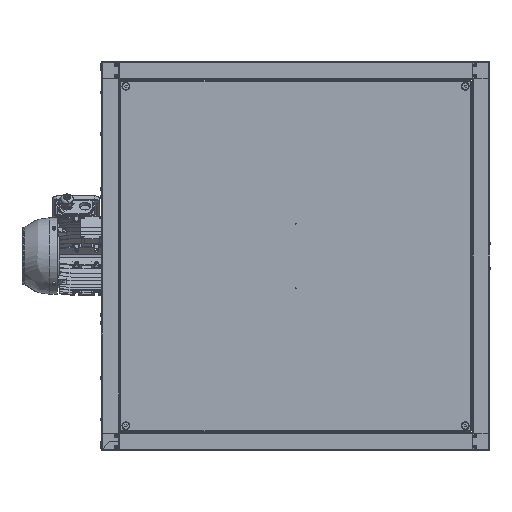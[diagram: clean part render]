
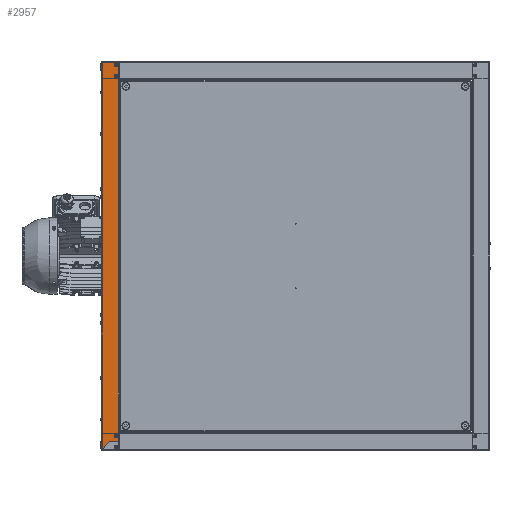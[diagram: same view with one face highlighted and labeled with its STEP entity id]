
A CAD part, left-side view. The second image highlights one B-rep face of the part: STEP entity #2957.
In plain terms, the highlighted planar face has unit normal (-1, 0, 0).
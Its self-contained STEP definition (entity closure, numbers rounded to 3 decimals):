
#577 = CARTESIAN_POINT ( 'NONE',  ( -450., 413.9, 417.2 ) ) ;
#689 = CIRCLE ( 'NONE', #39492, 2.1 ) ;
#851 = VERTEX_POINT ( 'NONE', #14037 ) ;
#1060 = EDGE_CURVE ( 'NONE', #10006, #851, #87033, .T. ) ;
#2957 = ADVANCED_FACE ( 'NONE', ( #48115, #45896, #26895, #7860 ), #43989, .F. ) ;
#4261 = DIRECTION ( 'NONE',  ( 0., -1., 0. ) ) ;
#4307 = CARTESIAN_POINT ( 'NONE',  ( -450., 416., -417.2 ) ) ;
#4542 = AXIS2_PLACEMENT_3D ( 'NONE', #5942, #55896, #13144 ) ;
#4885 = DIRECTION ( 'NONE',  ( -1., 0., 0. ) ) ;
#5180 = LINE ( 'NONE', #6400, #81252 ) ;
#5189 = DIRECTION ( 'NONE',  ( 0., 0., -1. ) ) ;
#5220 = CARTESIAN_POINT ( 'NONE',  ( -450., 410.7, 411.65 ) ) ;
#5245 = DIRECTION ( 'NONE',  ( 1., 0., 0. ) ) ;
#5942 = CARTESIAN_POINT ( 'NONE',  ( -450., 416., 441.7 ) ) ;
#6376 = CIRCLE ( 'NONE', #58383, 2.1 ) ;
#6400 = CARTESIAN_POINT ( 'NONE',  ( -450., 410.7, -410.05 ) ) ;
#6476 = ORIENTED_EDGE ( 'NONE', *, *, #17578, .T. ) ;
#6588 = VERTEX_POINT ( 'NONE', #45295 ) ;
#7860 = FACE_OUTER_BOUND ( 'NONE', #44900, .T. ) ;
#8330 = VERTEX_POINT ( 'NONE', #577 ) ;
#10006 = VERTEX_POINT ( 'NONE', #37732 ) ;
#10173 = CARTESIAN_POINT ( 'NONE',  ( -450., 410.2, 411.65 ) ) ;
#10310 = LINE ( 'NONE', #34438, #84173 ) ;
#12044 = VECTOR ( 'NONE', #92623, 1000. ) ;
#12526 = CARTESIAN_POINT ( 'NONE',  ( -450., 448., -447.35 ) ) ;
#13144 = DIRECTION ( 'NONE',  ( 0., -1., 0. ) ) ;
#14037 = CARTESIAN_POINT ( 'NONE',  ( -450., 418.1, -417.2 ) ) ;
#14275 = LINE ( 'NONE', #22300, #12044 ) ;
#16045 = EDGE_CURVE ( 'NONE', #51149, #73587, #14275, .T. ) ;
#17045 = EDGE_CURVE ( 'NONE', #86319, #90865, #43957, .T. ) ;
#17578 = EDGE_CURVE ( 'NONE', #33558, #51149, #10310, .T. ) ;
#18221 = CIRCLE ( 'NONE', #4542, 2.1 ) ;
#18536 = AXIS2_PLACEMENT_3D ( 'NONE', #19602, #5245, #34048 ) ;
#19334 = EDGE_CURVE ( 'NONE', #77454, #33558, #52613, .T. ) ;
#19396 = CARTESIAN_POINT ( 'NONE',  ( -450., 410.2, -410.05 ) ) ;
#19602 = CARTESIAN_POINT ( 'NONE',  ( -450., 450., 448.95 ) ) ;
#22118 = CARTESIAN_POINT ( 'NONE',  ( -450., 410.2, -429.1 ) ) ;
#22300 = CARTESIAN_POINT ( 'NONE',  ( -450., 410.2, 448. ) ) ;
#22421 = ORIENTED_EDGE ( 'NONE', *, *, #19334, .T. ) ;
#23254 = EDGE_LOOP ( 'NONE', ( #80254, #61811 ) ) ;
#23808 = VECTOR ( 'NONE', #32987, 1000. ) ;
#24898 = VECTOR ( 'NONE', #4261, 1000. ) ;
#25872 = CARTESIAN_POINT ( 'NONE',  ( -450., 410.2, 448. ) ) ;
#26231 = AXIS2_PLACEMENT_3D ( 'NONE', #4307, #47110, #90010 ) ;
#26895 = FACE_BOUND ( 'NONE', #23254, .T. ) ;
#29264 = DIRECTION ( 'NONE',  ( -1., 0., 0. ) ) ;
#29582 = DIRECTION ( 'NONE',  ( -1., 0., 0. ) ) ;
#30915 = ORIENTED_EDGE ( 'NONE', *, *, #33387, .F. ) ;
#31949 = CIRCLE ( 'NONE', #58801, 2.1 ) ;
#32693 = CARTESIAN_POINT ( 'NONE',  ( -450., 418.1, 417.2 ) ) ;
#32987 = DIRECTION ( 'NONE',  ( 0., 0., -1. ) ) ;
#32996 = DIRECTION ( 'NONE',  ( 0., 0., 1. ) ) ;
#33387 = EDGE_CURVE ( 'NONE', #53920, #8330, #689, .T. ) ;
#33558 = VERTEX_POINT ( 'NONE', #10173 ) ;
#34048 = DIRECTION ( 'NONE',  ( 0., 1., 0. ) ) ;
#34438 = CARTESIAN_POINT ( 'NONE',  ( -450., 410.2, 411.65 ) ) ;
#36108 = ORIENTED_EDGE ( 'NONE', *, *, #66110, .F. ) ;
#36625 = CARTESIAN_POINT ( 'NONE',  ( -450., 449.1, -448.45 ) ) ;
#37732 = CARTESIAN_POINT ( 'NONE',  ( -450., 413.9, -417.2 ) ) ;
#37868 = VECTOR ( 'NONE', #32996, 1000. ) ;
#38542 = EDGE_CURVE ( 'NONE', #851, #10006, #31949, .T. ) ;
#38991 = VERTEX_POINT ( 'NONE', #19396 ) ;
#39395 = ORIENTED_EDGE ( 'NONE', *, *, #1060, .F. ) ;
#39492 = AXIS2_PLACEMENT_3D ( 'NONE', #72372, #29582, #79601 ) ;
#40998 = VERTEX_POINT ( 'NONE', #12526 ) ;
#41023 = EDGE_CURVE ( 'NONE', #6588, #52832, #18221, .T. ) ;
#42042 = CARTESIAN_POINT ( 'NONE',  ( -450., 416., -417.2 ) ) ;
#42393 = LINE ( 'NONE', #76780, #59048 ) ;
#43776 = EDGE_CURVE ( 'NONE', #73587, #40998, #42393, .T. ) ;
#43957 = LINE ( 'NONE', #22118, #24898 ) ;
#43989 = PLANE ( 'NONE',  #18536 ) ;
#44474 = ORIENTED_EDGE ( 'NONE', *, *, #43776, .T. ) ;
#44900 = EDGE_LOOP ( 'NONE', ( #77944, #44474, #36108, #74135, #59384, #50218, #71349, #22421, #6476 ) ) ;
#45295 = CARTESIAN_POINT ( 'NONE',  ( -450., 418.1, 441.7 ) ) ;
#45896 = FACE_BOUND ( 'NONE', #79512, .T. ) ;
#47110 = DIRECTION ( 'NONE',  ( -1., 0., 0. ) ) ;
#47660 = CARTESIAN_POINT ( 'NONE',  ( -450., 416., 417.2 ) ) ;
#48115 = FACE_BOUND ( 'NONE', #53742, .T. ) ;
#48144 = DIRECTION ( 'NONE',  ( 0., -1., 0. ) ) ;
#49171 = DIRECTION ( 'NONE',  ( 0., -1., 0. ) ) ;
#50218 = ORIENTED_EDGE ( 'NONE', *, *, #53314, .T. ) ;
#51149 = VERTEX_POINT ( 'NONE', #25872 ) ;
#52613 = LINE ( 'NONE', #55338, #88458 ) ;
#52823 = VECTOR ( 'NONE', #86660, 1000. ) ;
#52832 = VERTEX_POINT ( 'NONE', #71177 ) ;
#53314 = EDGE_CURVE ( 'NONE', #38991, #68703, #5180, .T. ) ;
#53742 = EDGE_LOOP ( 'NONE', ( #39395, #73143 ) ) ;
#53920 = VERTEX_POINT ( 'NONE', #32693 ) ;
#54857 = DIRECTION ( 'NONE',  ( 0., -1., 0. ) ) ;
#55338 = CARTESIAN_POINT ( 'NONE',  ( -450., 410.7, 411.65 ) ) ;
#55896 = DIRECTION ( 'NONE',  ( -1., 0., 0. ) ) ;
#55924 = CIRCLE ( 'NONE', #75725, 2.1 ) ;
#56151 = CARTESIAN_POINT ( 'NONE',  ( -450., 410.7, -410.05 ) ) ;
#56369 = DIRECTION ( 'NONE',  ( 0., 1., 0. ) ) ;
#56806 = LINE ( 'NONE', #61328, #37868 ) ;
#58383 = AXIS2_PLACEMENT_3D ( 'NONE', #72033, #29264, #79260 ) ;
#58801 = AXIS2_PLACEMENT_3D ( 'NONE', #42042, #92073, #49171 ) ;
#59048 = VECTOR ( 'NONE', #5189, 1000. ) ;
#59384 = ORIENTED_EDGE ( 'NONE', *, *, #59426, .T. ) ;
#59426 = EDGE_CURVE ( 'NONE', #90865, #38991, #56806, .T. ) ;
#59706 = CARTESIAN_POINT ( 'NONE',  ( -450., 410.2, -429.1 ) ) ;
#61328 = CARTESIAN_POINT ( 'NONE',  ( -450., 410.2, -410.05 ) ) ;
#61811 = ORIENTED_EDGE ( 'NONE', *, *, #41023, .F. ) ;
#64023 = LINE ( 'NONE', #82711, #23808 ) ;
#66110 = EDGE_CURVE ( 'NONE', #86319, #40998, #88661, .T. ) ;
#68703 = VERTEX_POINT ( 'NONE', #56151 ) ;
#70412 = EDGE_CURVE ( 'NONE', #8330, #53920, #55924, .T. ) ;
#71177 = CARTESIAN_POINT ( 'NONE',  ( -450., 413.9, 441.7 ) ) ;
#71349 = ORIENTED_EDGE ( 'NONE', *, *, #74675, .F. ) ;
#72033 = CARTESIAN_POINT ( 'NONE',  ( -450., 416., 441.7 ) ) ;
#72372 = CARTESIAN_POINT ( 'NONE',  ( -450., 416., 417.2 ) ) ;
#72631 = EDGE_CURVE ( 'NONE', #52832, #6588, #6376, .T. ) ;
#73143 = ORIENTED_EDGE ( 'NONE', *, *, #38542, .F. ) ;
#73587 = VERTEX_POINT ( 'NONE', #76925 ) ;
#74135 = ORIENTED_EDGE ( 'NONE', *, *, #17045, .T. ) ;
#74675 = EDGE_CURVE ( 'NONE', #77454, #68703, #64023, .T. ) ;
#75725 = AXIS2_PLACEMENT_3D ( 'NONE', #47660, #4885, #54857 ) ;
#76780 = CARTESIAN_POINT ( 'NONE',  ( -450., 448., 448.95 ) ) ;
#76925 = CARTESIAN_POINT ( 'NONE',  ( -450., 448., 448. ) ) ;
#77454 = VERTEX_POINT ( 'NONE', #5220 ) ;
#77517 = DIRECTION ( 'NONE',  ( 0., 0., 1. ) ) ;
#77944 = ORIENTED_EDGE ( 'NONE', *, *, #16045, .T. ) ;
#79260 = DIRECTION ( 'NONE',  ( 0., -1., 0. ) ) ;
#79512 = EDGE_LOOP ( 'NONE', ( #80141, #30915 ) ) ;
#79601 = DIRECTION ( 'NONE',  ( 0., -1., 0. ) ) ;
#80141 = ORIENTED_EDGE ( 'NONE', *, *, #70412, .F. ) ;
#80254 = ORIENTED_EDGE ( 'NONE', *, *, #72631, .F. ) ;
#81252 = VECTOR ( 'NONE', #56369, 1000. ) ;
#82711 = CARTESIAN_POINT ( 'NONE',  ( -450., 410.7, 448.95 ) ) ;
#83823 = CARTESIAN_POINT ( 'NONE',  ( -450., 429.75, -429.1 ) ) ;
#84173 = VECTOR ( 'NONE', #77517, 1000. ) ;
#86319 = VERTEX_POINT ( 'NONE', #83823 ) ;
#86660 = DIRECTION ( 'NONE',  ( 0., 0.707, -0.707 ) ) ;
#87033 = CIRCLE ( 'NONE', #26231, 2.1 ) ;
#88458 = VECTOR ( 'NONE', #48144, 1000. ) ;
#88661 = LINE ( 'NONE', #36625, #52823 ) ;
#90010 = DIRECTION ( 'NONE',  ( 0., -1., 0. ) ) ;
#90865 = VERTEX_POINT ( 'NONE', #59706 ) ;
#92073 = DIRECTION ( 'NONE',  ( -1., 0., 0. ) ) ;
#92623 = DIRECTION ( 'NONE',  ( 0., 1., 0. ) ) ;
